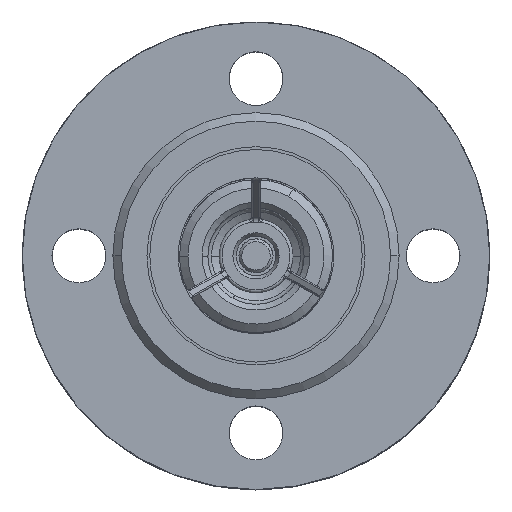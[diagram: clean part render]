
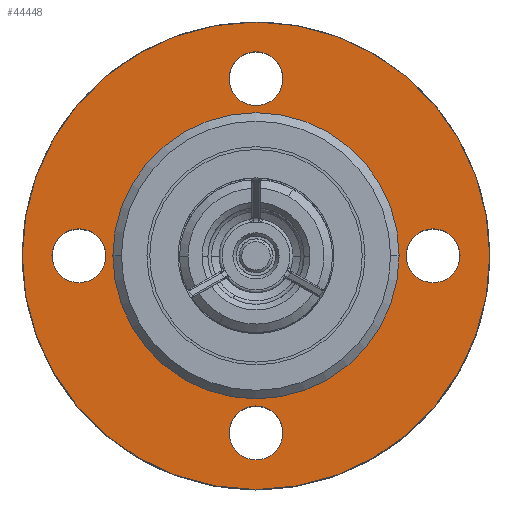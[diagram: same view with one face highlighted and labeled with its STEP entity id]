
A CAD part, top view. The second image highlights one B-rep face of the part: STEP entity #44448.
In plain terms, the highlighted planar face has unit normal (0, 0, 1).
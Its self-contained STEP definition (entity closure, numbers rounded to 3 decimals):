
#500 = CIRCLE ( 'NONE', #35912, 9.5 ) ;
#2112 = DIRECTION ( 'NONE',  ( 0., 0., -1. ) ) ;
#2559 = CIRCLE ( 'NONE', #17069, 9.5 ) ;
#3282 = CARTESIAN_POINT ( 'NONE',  ( 0., 62.5, 47. ) ) ;
#3830 = FACE_BOUND ( 'NONE', #17704, .T. ) ;
#3948 = AXIS2_PLACEMENT_3D ( 'NONE', #3282, #42080, #8850 ) ;
#3958 = CARTESIAN_POINT ( 'NONE',  ( 0., -62.5, 47. ) ) ;
#4005 = DIRECTION ( 'NONE',  ( -1., 0., 0. ) ) ;
#4799 = AXIS2_PLACEMENT_3D ( 'NONE', #63909, #30630, #69484 ) ;
#5984 = VERTEX_POINT ( 'NONE', #10504 ) ;
#6197 = ORIENTED_EDGE ( 'NONE', *, *, #22955, .F. ) ;
#7356 = DIRECTION ( 'NONE',  ( 0., 0., -1. ) ) ;
#7522 = ORIENTED_EDGE ( 'NONE', *, *, #32434, .T. ) ;
#8441 = VERTEX_POINT ( 'NONE', #40307 ) ;
#8850 = DIRECTION ( 'NONE',  ( 1., 0., 0. ) ) ;
#9530 = DIRECTION ( 'NONE',  ( 1., 0., 0. ) ) ;
#10424 = CARTESIAN_POINT ( 'NONE',  ( 0., 0., 47. ) ) ;
#10504 = CARTESIAN_POINT ( 'NONE',  ( -72., 0., 47. ) ) ;
#10569 = AXIS2_PLACEMENT_3D ( 'NONE', #70488, #37233, #4005 ) ;
#11119 = CIRCLE ( 'NONE', #36197, 9.5 ) ;
#12177 = DIRECTION ( 'NONE',  ( 0., 0., -1. ) ) ;
#12394 = AXIS2_PLACEMENT_3D ( 'NONE', #45823, #12601, #51405 ) ;
#12537 = VERTEX_POINT ( 'NONE', #23893 ) ;
#12601 = DIRECTION ( 'NONE',  ( 0., 0., 1. ) ) ;
#12669 = DIRECTION ( 'NONE',  ( 0., 0., -1. ) ) ;
#13756 = EDGE_CURVE ( 'NONE', #34227, #57140, #25191, .T. ) ;
#13942 = DIRECTION ( 'NONE',  ( 0., 0., 1. ) ) ;
#14868 = AXIS2_PLACEMENT_3D ( 'NONE', #3958, #42767, #9530 ) ;
#16011 = DIRECTION ( 'NONE',  ( 1., 0., 0. ) ) ;
#16523 = EDGE_CURVE ( 'NONE', #62224, #12537, #2559, .T. ) ;
#17004 = ORIENTED_EDGE ( 'NONE', *, *, #13756, .F. ) ;
#17069 = AXIS2_PLACEMENT_3D ( 'NONE', #40589, #7356, #46172 ) ;
#17704 = EDGE_LOOP ( 'NONE', ( #71778, #18696 ) ) ;
#18696 = ORIENTED_EDGE ( 'NONE', *, *, #33276, .T. ) ;
#18931 = CARTESIAN_POINT ( 'NONE',  ( 50.5, 0., 47. ) ) ;
#20672 = EDGE_LOOP ( 'NONE', ( #6197, #69066 ) ) ;
#22802 = EDGE_CURVE ( 'NONE', #40516, #5984, #11119, .T. ) ;
#22955 = EDGE_CURVE ( 'NONE', #51677, #50975, #51906, .T. ) ;
#23246 = EDGE_LOOP ( 'NONE', ( #42231, #24888 ) ) ;
#23775 = AXIS2_PLACEMENT_3D ( 'NONE', #35328, #2112, #40920 ) ;
#23893 = CARTESIAN_POINT ( 'NONE',  ( 53., 0., 47. ) ) ;
#24888 = ORIENTED_EDGE ( 'NONE', *, *, #26315, .T. ) ;
#25191 = CIRCLE ( 'NONE', #12394, 50.5 ) ;
#25339 = VERTEX_POINT ( 'NONE', #50536 ) ;
#26315 = EDGE_CURVE ( 'NONE', #66810, #25339, #29270, .T. ) ;
#27300 = CARTESIAN_POINT ( 'NONE',  ( 0., -62.5, 47. ) ) ;
#28153 = CIRCLE ( 'NONE', #3948, 9.5 ) ;
#29135 = EDGE_CURVE ( 'NONE', #68994, #8441, #37938, .T. ) ;
#29270 = CIRCLE ( 'NONE', #14868, 9.5 ) ;
#30306 = ORIENTED_EDGE ( 'NONE', *, *, #16523, .T. ) ;
#30630 = DIRECTION ( 'NONE',  ( 0., 0., -1. ) ) ;
#30711 = DIRECTION ( 'NONE',  ( 0., 0., -1. ) ) ;
#31231 = EDGE_CURVE ( 'NONE', #50975, #51677, #38737, .T. ) ;
#32434 = EDGE_CURVE ( 'NONE', #12537, #62224, #500, .T. ) ;
#32863 = DIRECTION ( 'NONE',  ( 1., 0., 0. ) ) ;
#33276 = EDGE_CURVE ( 'NONE', #5984, #40516, #65656, .T. ) ;
#33303 = FACE_BOUND ( 'NONE', #50211, .T. ) ;
#34227 = VERTEX_POINT ( 'NONE', #18931 ) ;
#35328 = CARTESIAN_POINT ( 'NONE',  ( 0., 62.5, 47. ) ) ;
#35912 = AXIS2_PLACEMENT_3D ( 'NONE', #63998, #30711, #69565 ) ;
#35996 = PLANE ( 'NONE',  #51895 ) ;
#36197 = AXIS2_PLACEMENT_3D ( 'NONE', #45400, #12177, #50990 ) ;
#36502 = CARTESIAN_POINT ( 'NONE',  ( -9.5, -62.5, 47. ) ) ;
#37233 = DIRECTION ( 'NONE',  ( 0., 0., 1. ) ) ;
#37938 = CIRCLE ( 'NONE', #23775, 9.5 ) ;
#38737 = CIRCLE ( 'NONE', #48474, 82.5 ) ;
#40307 = CARTESIAN_POINT ( 'NONE',  ( 9.5, 62.5, 47. ) ) ;
#40326 = CARTESIAN_POINT ( 'NONE',  ( -82.5, 0., 47. ) ) ;
#40516 = VERTEX_POINT ( 'NONE', #58428 ) ;
#40589 = CARTESIAN_POINT ( 'NONE',  ( 62.5, 0., 47. ) ) ;
#40920 = DIRECTION ( 'NONE',  ( 1., 0., 0. ) ) ;
#41484 = EDGE_CURVE ( 'NONE', #8441, #68994, #28153, .T. ) ;
#42080 = DIRECTION ( 'NONE',  ( 0., 0., -1. ) ) ;
#42231 = ORIENTED_EDGE ( 'NONE', *, *, #50757, .T. ) ;
#42767 = DIRECTION ( 'NONE',  ( 0., 0., -1. ) ) ;
#44448 = ADVANCED_FACE ( 'NONE', ( #48096, #62850, #3830, #33303, #61096, #46332 ), #35996, .T. ) ;
#45099 = ORIENTED_EDGE ( 'NONE', *, *, #41484, .T. ) ;
#45400 = CARTESIAN_POINT ( 'NONE',  ( -62.5, 0., 47. ) ) ;
#45823 = CARTESIAN_POINT ( 'NONE',  ( 0., 0., 47. ) ) ;
#45891 = CARTESIAN_POINT ( 'NONE',  ( 0., 0., 47. ) ) ;
#46172 = DIRECTION ( 'NONE',  ( 1., 0., 0. ) ) ;
#46332 = FACE_OUTER_BOUND ( 'NONE', #20672, .T. ) ;
#47374 = AXIS2_PLACEMENT_3D ( 'NONE', #45891, #12669, #51476 ) ;
#47502 = EDGE_CURVE ( 'NONE', #57140, #34227, #68008, .T. ) ;
#48096 = FACE_BOUND ( 'NONE', #23246, .T. ) ;
#48474 = AXIS2_PLACEMENT_3D ( 'NONE', #10424, #49233, #16011 ) ;
#49233 = DIRECTION ( 'NONE',  ( 0., 0., -1. ) ) ;
#50211 = EDGE_LOOP ( 'NONE', ( #45099, #71962 ) ) ;
#50536 = CARTESIAN_POINT ( 'NONE',  ( 9.5, -62.5, 47. ) ) ;
#50757 = EDGE_CURVE ( 'NONE', #25339, #66810, #54905, .T. ) ;
#50975 = VERTEX_POINT ( 'NONE', #40326 ) ;
#50990 = DIRECTION ( 'NONE',  ( 1., 0., 0. ) ) ;
#51405 = DIRECTION ( 'NONE',  ( -1., 0., 0. ) ) ;
#51476 = DIRECTION ( 'NONE',  ( 1., 0., 0. ) ) ;
#51677 = VERTEX_POINT ( 'NONE', #61664 ) ;
#51895 = AXIS2_PLACEMENT_3D ( 'NONE', #52511, #13942, #52753 ) ;
#51906 = CIRCLE ( 'NONE', #47374, 82.5 ) ;
#52511 = CARTESIAN_POINT ( 'NONE',  ( 0., 0., 47. ) ) ;
#52753 = DIRECTION ( 'NONE',  ( 1., 0., 0. ) ) ;
#54905 = CIRCLE ( 'NONE', #71053, 9.5 ) ;
#57140 = VERTEX_POINT ( 'NONE', #70696 ) ;
#57838 = ORIENTED_EDGE ( 'NONE', *, *, #47502, .F. ) ;
#57997 = CARTESIAN_POINT ( 'NONE',  ( 72., 0., 47. ) ) ;
#58428 = CARTESIAN_POINT ( 'NONE',  ( -53., 0., 47. ) ) ;
#58937 = EDGE_LOOP ( 'NONE', ( #57838, #17004 ) ) ;
#60493 = CARTESIAN_POINT ( 'NONE',  ( -9.5, 62.5, 47. ) ) ;
#61096 = FACE_BOUND ( 'NONE', #63188, .T. ) ;
#61664 = CARTESIAN_POINT ( 'NONE',  ( 82.5, 0., 47. ) ) ;
#62224 = VERTEX_POINT ( 'NONE', #57997 ) ;
#62850 = FACE_BOUND ( 'NONE', #58937, .T. ) ;
#63188 = EDGE_LOOP ( 'NONE', ( #30306, #7522 ) ) ;
#63909 = CARTESIAN_POINT ( 'NONE',  ( -62.5, 0., 47. ) ) ;
#63998 = CARTESIAN_POINT ( 'NONE',  ( 62.5, 0., 47. ) ) ;
#65656 = CIRCLE ( 'NONE', #4799, 9.5 ) ;
#66142 = DIRECTION ( 'NONE',  ( 0., 0., -1. ) ) ;
#66810 = VERTEX_POINT ( 'NONE', #36502 ) ;
#68008 = CIRCLE ( 'NONE', #10569, 50.5 ) ;
#68994 = VERTEX_POINT ( 'NONE', #60493 ) ;
#69066 = ORIENTED_EDGE ( 'NONE', *, *, #31231, .F. ) ;
#69484 = DIRECTION ( 'NONE',  ( 1., 0., 0. ) ) ;
#69565 = DIRECTION ( 'NONE',  ( 1., 0., 0. ) ) ;
#70488 = CARTESIAN_POINT ( 'NONE',  ( 0., 0., 47. ) ) ;
#70696 = CARTESIAN_POINT ( 'NONE',  ( -50.5, 0., 47. ) ) ;
#71053 = AXIS2_PLACEMENT_3D ( 'NONE', #27300, #66142, #32863 ) ;
#71778 = ORIENTED_EDGE ( 'NONE', *, *, #22802, .T. ) ;
#71962 = ORIENTED_EDGE ( 'NONE', *, *, #29135, .T. ) ;
